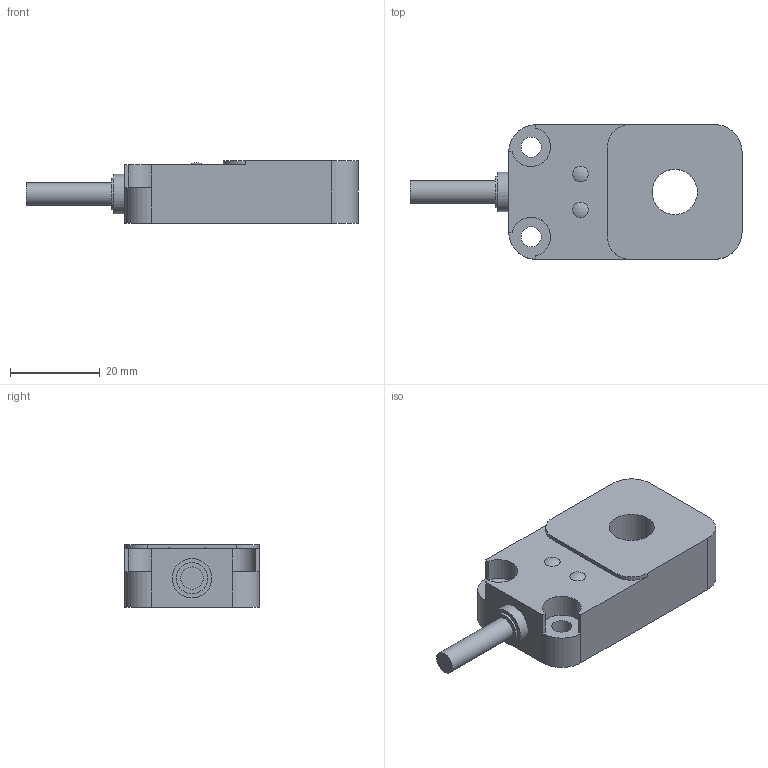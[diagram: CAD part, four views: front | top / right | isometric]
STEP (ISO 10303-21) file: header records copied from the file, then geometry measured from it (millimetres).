
FILE_DESCRIPTION((''),'2;1');
FILE_NAME('C:\TurckZip\Q14-10R-Cable.stp','2008-11-11T11:55:38',('IKOROL'),(''),'Autodesk Inventor 2008','Autodesk Inventor 2008','');
FILE_SCHEMA(('CONFIG_CONTROL_DESIGN'));
Length unit declared in the file: millimetre
Products named in the file (1): Part10
Bounding box: 74 x 30 x 14 mm (x, y, z)
Volume: 19345.1 mm3; surface area: 6105.5 mm2
Topology: 1 solids, 1 shells, 33 faces, 76 edges, 50 vertices
Faces by surface type: plane 17, cylinder 14, sphere 2
Full cylindrical faces by diameter (mm): 4.5 x2, 5 x1, 7 x1, 8.8 x1, 10.1 x1
Entity records: 1013 total; most frequent: DIRECTION 168, CARTESIAN_POINT 154, ORIENTED_EDGE 140, EDGE_CURVE 70, AXIS2_PLACEMENT_3D 64, VERTEX_POINT 50, EDGE_LOOP 50, VECTOR 40
